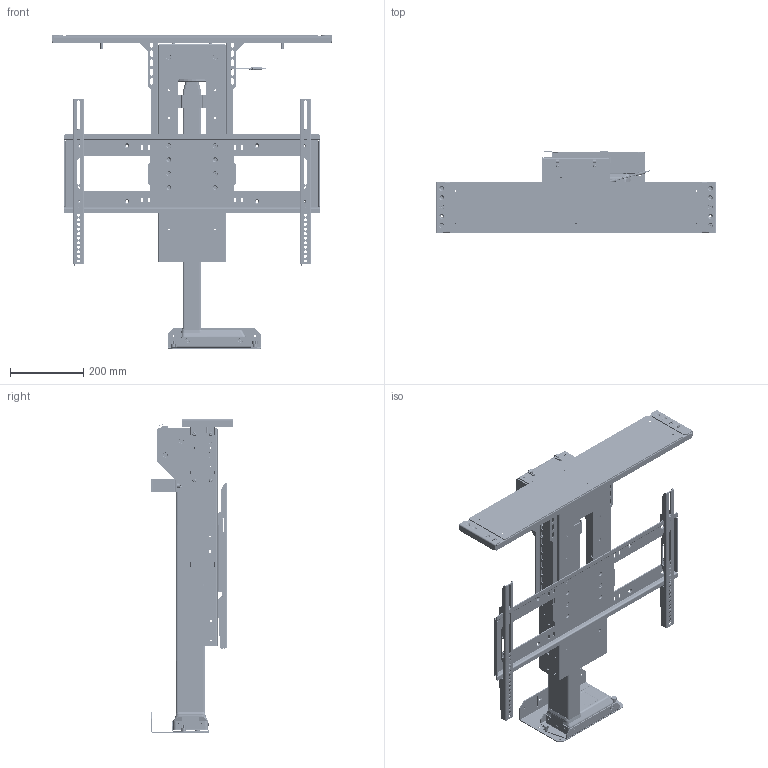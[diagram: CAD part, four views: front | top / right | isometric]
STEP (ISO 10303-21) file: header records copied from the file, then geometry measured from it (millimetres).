
FILE_DESCRIPTION(/* description */ ('STEP AP242','CAx-IF Rec.Pracs.---Representation and Presentation of Product Manufacturing Information (PMI)---4.0---2014-10-13','CAx-IF Rec.Pracs.---3D Tessellated Geometry---0.4---2014-09-14','2;1'),/* implementation_level */ '2;1');
FILE_NAME(/* name */ '64b01e041b8c9b31e18ccfcc',/* time_stamp */ '2023-07-13T15:53:47Z',/* author */ (''),/* organization */ (''),/* preprocessor_version */ 'ST-DEVELOPER v19.4',/* originating_system */ ' ',/* authorisation */ ' ');
FILE_SCHEMA (('AP242_MANAGED_MODEL_BASED_3D_ENGINEERING_MIM_LF { 1 0 10303 442 1 1 4 }'));
Products named in the file (111): L-65x; Socket button head screw M6x1 x 16; Hex socket countersunk head screw M6x1 x 12; Socket button head screw M6x1 x 12; WDS8151-215; ULS-NX-039 - ULS HD LID SUPPORT w/ PEMs <2>; PEM CLS-M6-00  ; ULS-NX-039 -- ULS HD LID SUPPORT; L65 PS Adapter; L-65 Lower Sub Assembly <1>; ULS-NX-004 - ULS COLUMN CLAMP; ULS-NX-002 - ULS QUICK RELEASE LC MOUNT; ULS-NX-038 - MS Rear Support <1>; ULS-NX-038 - MS Rear Support; PEM FHS-M6-12  ; ULS-NX-023 -- MS QR Base Mount <1>; ULS-NX-023 - MS QR Base Mount; Lift Column H <1>; L45 LC Middle Profile; L45 LC Inner Profile; L45 LC Motor Housing; ULS-NX-039 - ULS HD LID SUPPORT w/ PEMs <1>; SBP & VMB <1>; PZ Pan head screw M5x0.80 x 25; ULS-NX-017 - UL SCREEN BACK PLATE; ULS-NX-118 - UL VMB WELDMENT <1>; VMB Washer; 90107A012; ULS-NX-019 - UL LEVEL ADJUSTMENT PLATE; PEM BSO-632-10  ZI; Socket button head cap screw #6-32 x 0.188; ULS-NX-018 - UL VERICAL MOUNTING BAR; ULS-NX-020 - UL SCREEN LOCK; ULS-NX-118 - UL VMB WELDMENT <2>; L-65 HD Lid Plate Assembly w/ Lid Adapter <1>; PEM S-M6-1  ZI; 97069A106_Zinc-Plated Steel Spring Lock Washer; Hex socket countersunk head screw M6x1 x 10; Plain washer extra large grade C M6; PEM FH-M6-18  ZI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
Assembly tree (303 placements, depth 4):
  L-65x
    Socket button head screw M6x1 x 16  x4
    Hex socket countersunk head screw M6x1 x 12  x12
    Socket button head screw M6x1 x 12  x14
    WDS8151-215  x4
    ULS-NX-039 - ULS HD LID SUPPORT w/ PEMs <2>
      PEM CLS-M6-00    x2
      ULS-NX-039 -- ULS HD LID SUPPORT
    L65 PS Adapter
    L-65 Lower Sub Assembly <1>
      ULS-NX-004 - ULS COLUMN CLAMP
      ULS-NX-002 - ULS QUICK RELEASE LC MOUNT
      ULS-NX-038 - MS Rear Support <1>
        ULS-NX-038 - MS Rear Support
        PEM FHS-M6-12    x2
      ULS-NX-023 -- MS QR Base Mount <1>
        PEM FHS-M6-12    x2
        ULS-NX-023 - MS QR Base Mount
      Lift Column H <1>
        L45 LC Middle Profile
        L45 LC Inner Profile
        L45 LC Motor Housing
    ULS-NX-039 - ULS HD LID SUPPORT w/ PEMs <1>
      PEM CLS-M6-00    x2
      ULS-NX-039 -- ULS HD LID SUPPORT
    SBP & VMB <1>
      PZ Pan head screw M5x0.80 x 25  x2
      ULS-NX-017 - UL SCREEN BACK PLATE
      ULS-NX-118 - UL VMB WELDMENT <1>
        VMB Washer  x4
        90107A012  x2
        ULS-NX-019 - UL LEVEL ADJUSTMENT PLATE
        PEM BSO-632-10  ZI  x2
        Socket button head cap screw #6-32 x 0.188  x2
        ULS-NX-018 - UL VERICAL MOUNTING BAR
        ULS-NX-020 - UL SCREEN LOCK
      ULS-NX-118 - UL VMB WELDMENT <2>
        ULS-NX-018 - UL VERICAL MOUNTING BAR
        PEM BSO-632-10  ZI  x2
        90107A012  x2
        Socket button head cap screw #6-32 x 0.188  x2
        ULS-NX-020 - UL SCREEN LOCK
        VMB Washer  x4
        ULS-NX-019 - UL LEVEL ADJUSTMENT PLATE
    L-65 HD Lid Plate Assembly w/ Lid Adapter <1>
      PEM S-M6-1  ZI  x6
      97069A106_Zinc-Plated Steel Spring Lock Washer  x4
      Hex socket countersunk head screw M6x1 x 10  x4
      Plain washer extra large grade C M6  x4
      PEM FH-M6-18  ZI  x4
      L-85 TOP PLATE REV C (L85-LM-056)
      Hex thin nut grade A & B M6  x4
      L-85 TOP PLATE EXTENSION REV B (L85-LM-057)  x2
      NEX-LM-032 -- LID PIN GUIDE  x2
      L85-LM-058 - Lid Adapter Plate Rev F <1>
        Self Clinching Pilot Pin  x2
        L-85 LID ADAPTER REV F (L85-LM-058)
    Motorized Swivel 2.0 w/ SS Long - Rev F6 <1>
      PEM CLS-M6-1  x48
      b2-501631 _2_
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Bounding box: 768.1 x 222.46 x 857.83 mm (x, y, z)
Volume: 10656323.1 mm3; surface area: 2726141 mm2
Topology: 279 solids, 292 shells, 12825 faces, 33572 edges, 21899 vertices
Faces by surface type: plane 7362, cylinder 2799, bspline 1192, cone 897, torus 499, sphere 76
Full cylindrical faces by diameter (mm): 0.914 x3, 1.016 x3, 1.041 x1, 1.194 x2, 1.208 x1, 1.32 x2, 1.499 x1, 1.524 x6, 1.552 x1, 1.6 x3, 1.956 x8, 2.007 x1, 2.2 x1, 2.235 x2, 2.5 x6, 2.642 x4, 3.048 x2, 3.175 x3, 3.4 x12, 3.505 x7, 3.683 x1, 4 x14, 4.242 x2, 4.496 x6, 4.6 x2, 4.763 x7, 4.917 x62, 5 x48, 5.026 x4, 5.08 x4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
Entity records: 244364 total; most frequent: CARTESIAN_POINT 107682, ORIENTED_EDGE 27596, DIRECTION 24573, EDGE_CURVE 13914, VERTEX_POINT 9453, AXIS2_PLACEMENT_3D 8671, LINE 7231, VECTOR 7231
